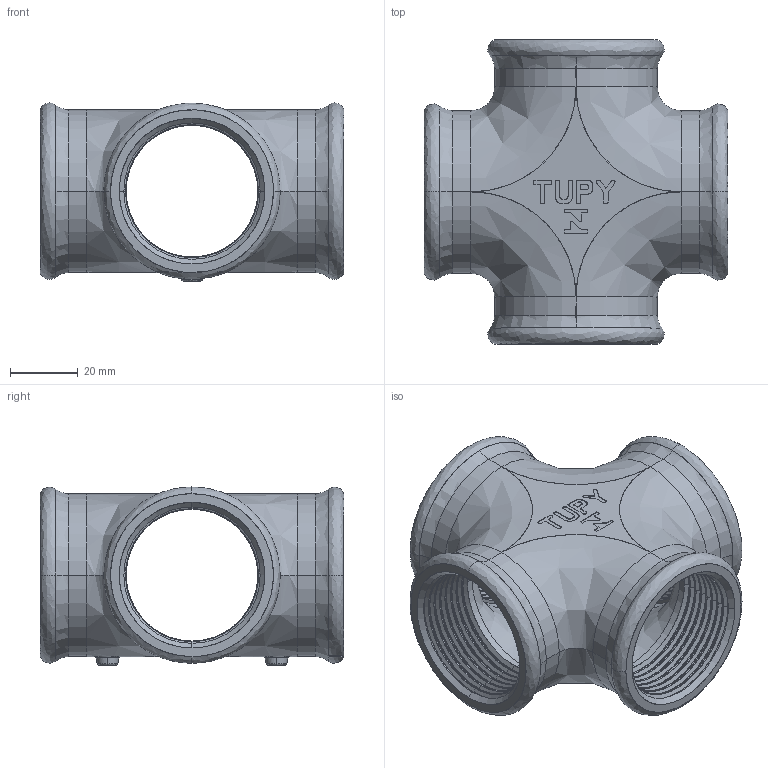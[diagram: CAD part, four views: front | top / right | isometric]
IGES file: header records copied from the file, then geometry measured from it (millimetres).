
Start section: SolidWorks IGES file using analytic representation for surfaces
Global section: file name: C:\Users\Joel Rosa\Desktop\Tubulação\12-18-OK\12-18-008.IGS; native system: SolidWorks 2011; preprocessor: SolidWorks 2011; author: Joel Rosa; date: 121207.003311; units: millimetre
Bounding box: 90 x 90 x 52.7 mm (x, y, z)
Surface area: 43730.9 mm2 (no closed solid volume)
Topology: 0 solids, 0 shells, 527 faces, 4180 edges, 4180 vertices
Faces by surface type: bspline 353, revolution 174
